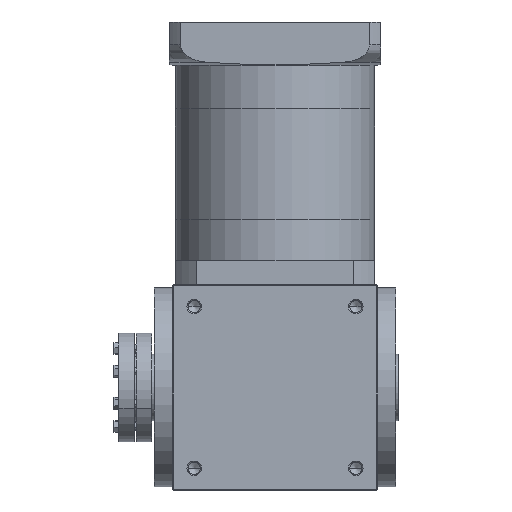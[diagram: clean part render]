
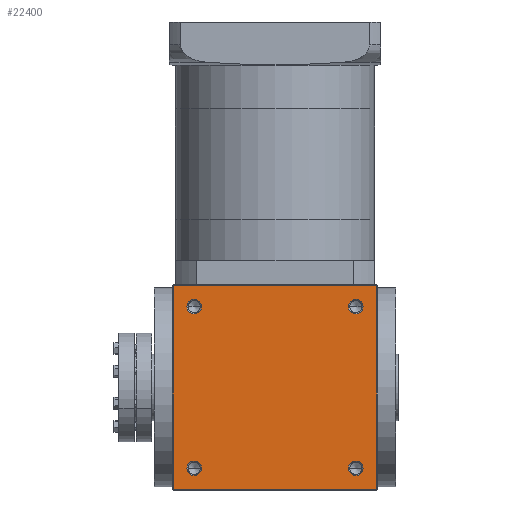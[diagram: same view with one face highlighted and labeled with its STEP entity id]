
A CAD part, front view. The second image highlights one B-rep face of the part: STEP entity #22400.
In plain terms, the highlighted planar face has unit normal (0, -1, 0).
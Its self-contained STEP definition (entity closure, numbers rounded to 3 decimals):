
#107 = AXIS2_PLACEMENT_3D ( 'NONE', #58528, #31892, #4156 ) ;
#1995 = EDGE_LOOP ( 'NONE', ( #11698, #21525 ) ) ;
#2968 = DIRECTION ( 'NONE',  ( 0., 0., 1. ) ) ;
#4156 = DIRECTION ( 'NONE',  ( 0., 0., -1. ) ) ;
#4175 = EDGE_LOOP ( 'NONE', ( #18477, #53244 ) ) ;
#4230 = CARTESIAN_POINT ( 'NONE',  ( 67., -85., 152. ) ) ;
#4576 = VERTEX_POINT ( 'NONE', #55472 ) ;
#5532 = CARTESIAN_POINT ( 'NONE',  ( 67., -85., 145.975 ) ) ;
#5745 = CARTESIAN_POINT ( 'NONE',  ( -67., -85., 11.975 ) ) ;
#5894 = AXIS2_PLACEMENT_3D ( 'NONE', #38719, #11196, #43122 ) ;
#6311 = CARTESIAN_POINT ( 'NONE',  ( -84.5, -85., 169.5 ) ) ;
#6722 = DIRECTION ( 'NONE',  ( 0., -1., 0. ) ) ;
#6931 = AXIS2_PLACEMENT_3D ( 'NONE', #38214, #10686, #42621 ) ;
#7277 = CIRCLE ( 'NONE', #43069, 6.025 ) ;
#7822 = FACE_BOUND ( 'NONE', #16402, .T. ) ;
#8053 = EDGE_CURVE ( 'NONE', #22256, #25033, #25455, .T. ) ;
#8501 = DIRECTION ( 'NONE',  ( 0., -1., 0. ) ) ;
#8833 = VERTEX_POINT ( 'NONE', #33567 ) ;
#8940 = DIRECTION ( 'NONE',  ( 0., 0., -1. ) ) ;
#9285 = ORIENTED_EDGE ( 'NONE', *, *, #55961, .F. ) ;
#9664 = AXIS2_PLACEMENT_3D ( 'NONE', #34354, #6722, #38919 ) ;
#10302 = CARTESIAN_POINT ( 'NONE',  ( -85., -85., 169.5 ) ) ;
#10306 = DIRECTION ( 'NONE',  ( 1., 0., 0. ) ) ;
#10542 = VERTEX_POINT ( 'NONE', #5532 ) ;
#10686 = DIRECTION ( 'NONE',  ( 0., -1., 0. ) ) ;
#11196 = DIRECTION ( 'NONE',  ( 0., -1., 0. ) ) ;
#11636 = CARTESIAN_POINT ( 'NONE',  ( 84.5, -85., 0.5 ) ) ;
#11698 = ORIENTED_EDGE ( 'NONE', *, *, #37356, .F. ) ;
#11737 = CIRCLE ( 'NONE', #12847, 6.025 ) ;
#12225 = CARTESIAN_POINT ( 'NONE',  ( -85., -85., 170. ) ) ;
#12374 = EDGE_CURVE ( 'NONE', #58282, #4576, #15218, .T. ) ;
#12715 = EDGE_CURVE ( 'NONE', #10542, #8833, #56804, .T. ) ;
#12847 = AXIS2_PLACEMENT_3D ( 'NONE', #36128, #8501, #40586 ) ;
#13006 = DIRECTION ( 'NONE',  ( 0., -1., 0. ) ) ;
#13261 = ORIENTED_EDGE ( 'NONE', *, *, #42943, .F. ) ;
#13515 = VERTEX_POINT ( 'NONE', #34205 ) ;
#13574 = CIRCLE ( 'NONE', #5894, 6.025 ) ;
#14226 = ORIENTED_EDGE ( 'NONE', *, *, #12374, .F. ) ;
#14466 = CARTESIAN_POINT ( 'NONE',  ( 84.5, -85., 170. ) ) ;
#14578 = ORIENTED_EDGE ( 'NONE', *, *, #40520, .F. ) ;
#15218 = LINE ( 'NONE', #56789, #26026 ) ;
#15449 = VERTEX_POINT ( 'NONE', #36381 ) ;
#15748 = CARTESIAN_POINT ( 'NONE',  ( -67., -85., 158.025 ) ) ;
#16014 = CIRCLE ( 'NONE', #57818, 6.025 ) ;
#16391 = ORIENTED_EDGE ( 'NONE', *, *, #24973, .F. ) ;
#16402 = EDGE_LOOP ( 'NONE', ( #42564, #16391 ) ) ;
#17042 = CARTESIAN_POINT ( 'NONE',  ( -67., -85., 152. ) ) ;
#18055 = VERTEX_POINT ( 'NONE', #5745 ) ;
#18477 = ORIENTED_EDGE ( 'NONE', *, *, #39239, .F. ) ;
#20175 = FACE_BOUND ( 'NONE', #34510, .T. ) ;
#21525 = ORIENTED_EDGE ( 'NONE', *, *, #46338, .F. ) ;
#21622 = FACE_BOUND ( 'NONE', #1995, .T. ) ;
#21660 = DIRECTION ( 'NONE',  ( 0., 0., -1. ) ) ;
#22256 = VERTEX_POINT ( 'NONE', #6311 ) ;
#22400 = ADVANCED_FACE ( 'NONE', ( #7822, #20175, #21622, #32398, #54700 ), #26173, .F. ) ;
#23763 = DIRECTION ( 'NONE',  ( 0., 0., -1. ) ) ;
#24856 = CIRCLE ( 'NONE', #6931, 6.025 ) ;
#24973 = EDGE_CURVE ( 'NONE', #52632, #13515, #37348, .T. ) ;
#25033 = VERTEX_POINT ( 'NONE', #43890 ) ;
#25455 = LINE ( 'NONE', #10302, #53535 ) ;
#26026 = VECTOR ( 'NONE', #32565, 1000. ) ;
#26173 = PLANE ( 'NONE',  #28216 ) ;
#28216 = AXIS2_PLACEMENT_3D ( 'NONE', #12225, #30760, #2968 ) ;
#28441 = VECTOR ( 'NONE', #23763, 1000. ) ;
#30639 = VECTOR ( 'NONE', #34477, 1000. ) ;
#30760 = DIRECTION ( 'NONE',  ( 0., 1., 0. ) ) ;
#31892 = DIRECTION ( 'NONE',  ( 0., -1., 0. ) ) ;
#32398 = FACE_BOUND ( 'NONE', #4175, .T. ) ;
#32565 = DIRECTION ( 'NONE',  ( -1., 0., 0. ) ) ;
#33567 = CARTESIAN_POINT ( 'NONE',  ( 67., -85., 158.025 ) ) ;
#34205 = CARTESIAN_POINT ( 'NONE',  ( -67., -85., 145.975 ) ) ;
#34354 = CARTESIAN_POINT ( 'NONE',  ( -67., -85., 152. ) ) ;
#34477 = DIRECTION ( 'NONE',  ( 0., 0., 1. ) ) ;
#34510 = EDGE_LOOP ( 'NONE', ( #38743, #14578 ) ) ;
#36128 = CARTESIAN_POINT ( 'NONE',  ( -67., -85., 18. ) ) ;
#36381 = CARTESIAN_POINT ( 'NONE',  ( -67., -85., 24.025 ) ) ;
#36541 = DIRECTION ( 'NONE',  ( 0., -1., 0. ) ) ;
#37348 = CIRCLE ( 'NONE', #9664, 6.025 ) ;
#37356 = EDGE_CURVE ( 'NONE', #50701, #45095, #24856, .T. ) ;
#38144 = EDGE_CURVE ( 'NONE', #15449, #18055, #11737, .T. ) ;
#38214 = CARTESIAN_POINT ( 'NONE',  ( 67., -85., 18. ) ) ;
#38719 = CARTESIAN_POINT ( 'NONE',  ( -67., -85., 18. ) ) ;
#38743 = ORIENTED_EDGE ( 'NONE', *, *, #12715, .F. ) ;
#38919 = DIRECTION ( 'NONE',  ( 0., 0., -1. ) ) ;
#39025 = CARTESIAN_POINT ( 'NONE',  ( -84.5, -85., 170. ) ) ;
#39070 = LINE ( 'NONE', #14466, #28441 ) ;
#39239 = EDGE_CURVE ( 'NONE', #18055, #15449, #13574, .T. ) ;
#40390 = CARTESIAN_POINT ( 'NONE',  ( 67., -85., 18. ) ) ;
#40520 = EDGE_CURVE ( 'NONE', #8833, #10542, #46107, .T. ) ;
#40586 = DIRECTION ( 'NONE',  ( 0., 0., -1. ) ) ;
#41328 = EDGE_LOOP ( 'NONE', ( #14226, #13261, #47446, #9285 ) ) ;
#42564 = ORIENTED_EDGE ( 'NONE', *, *, #53315, .F. ) ;
#42621 = DIRECTION ( 'NONE',  ( 0., 0., -1. ) ) ;
#42943 = EDGE_CURVE ( 'NONE', #25033, #58282, #39070, .T. ) ;
#43069 = AXIS2_PLACEMENT_3D ( 'NONE', #17042, #48684, #21660 ) ;
#43122 = DIRECTION ( 'NONE',  ( 0., 0., -1. ) ) ;
#43890 = CARTESIAN_POINT ( 'NONE',  ( 84.5, -85., 169.5 ) ) ;
#44793 = DIRECTION ( 'NONE',  ( 0., 0., -1. ) ) ;
#45095 = VERTEX_POINT ( 'NONE', #56574 ) ;
#46107 = CIRCLE ( 'NONE', #53198, 6.025 ) ;
#46338 = EDGE_CURVE ( 'NONE', #45095, #50701, #16014, .T. ) ;
#47446 = ORIENTED_EDGE ( 'NONE', *, *, #8053, .F. ) ;
#47580 = CARTESIAN_POINT ( 'NONE',  ( 67., -85., 11.975 ) ) ;
#48684 = DIRECTION ( 'NONE',  ( 0., -1., 0. ) ) ;
#50701 = VERTEX_POINT ( 'NONE', #47580 ) ;
#52632 = VERTEX_POINT ( 'NONE', #15748 ) ;
#53198 = AXIS2_PLACEMENT_3D ( 'NONE', #4230, #36541, #8940 ) ;
#53244 = ORIENTED_EDGE ( 'NONE', *, *, #38144, .F. ) ;
#53315 = EDGE_CURVE ( 'NONE', #13515, #52632, #7277, .T. ) ;
#53535 = VECTOR ( 'NONE', #10306, 1000. ) ;
#54369 = LINE ( 'NONE', #39025, #30639 ) ;
#54700 = FACE_OUTER_BOUND ( 'NONE', #41328, .T. ) ;
#55472 = CARTESIAN_POINT ( 'NONE',  ( -84.5, -85., 0.5 ) ) ;
#55961 = EDGE_CURVE ( 'NONE', #4576, #22256, #54369, .T. ) ;
#56574 = CARTESIAN_POINT ( 'NONE',  ( 67., -85., 24.025 ) ) ;
#56789 = CARTESIAN_POINT ( 'NONE',  ( -85., -85., 0.5 ) ) ;
#56804 = CIRCLE ( 'NONE', #107, 6.025 ) ;
#57818 = AXIS2_PLACEMENT_3D ( 'NONE', #40390, #13006, #44793 ) ;
#58282 = VERTEX_POINT ( 'NONE', #11636 ) ;
#58528 = CARTESIAN_POINT ( 'NONE',  ( 67., -85., 152. ) ) ;
